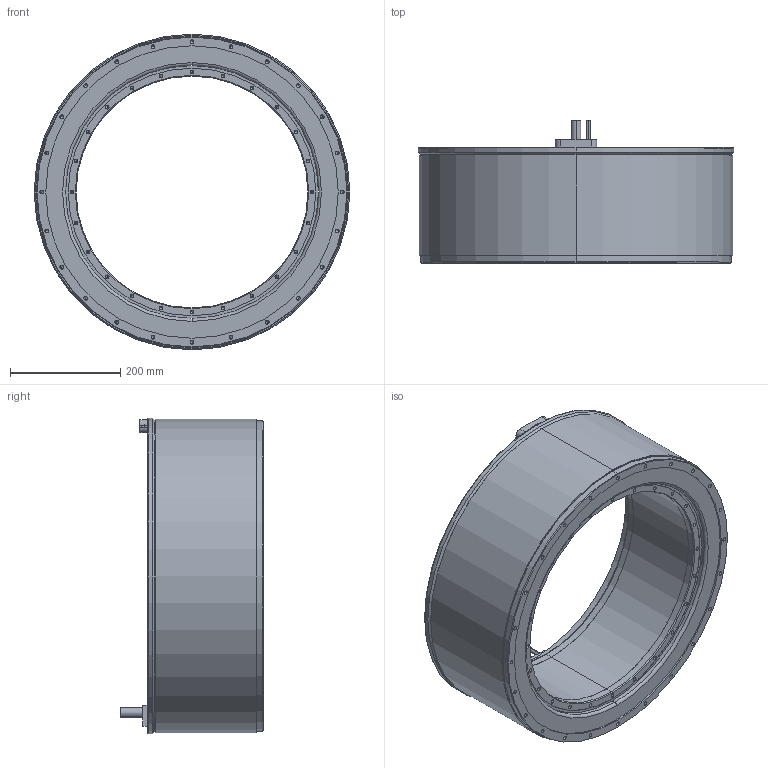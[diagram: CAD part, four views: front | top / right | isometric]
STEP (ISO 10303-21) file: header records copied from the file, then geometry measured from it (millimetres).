
FILE_DESCRIPTION (( 'STEP AP203' ), '1' );
FILE_NAME ('TM-2-GH-SD0(J0).STEP', '2023-06-06T03:59:54', ( '' ), ( '' ), 'SwSTEP 2.0', 'SolidWorks 2015', '' );
FILE_SCHEMA (( 'CONFIG_CONTROL_DESIGN' ));
Length unit declared in the file: millimetre
Products named in the file (3): TM-2-GH-SD0(J0)_Stator; TM-2-GH-SD0(J0); TM-2-GH(J0)_Rotor
Assembly tree (2 placements, depth 2):
  TM-2-GH-SD0(J0)
    TM-2-GH-SD0(J0)_Stator
    TM-2-GH(J0)_Rotor
Bounding box: 572 x 259 x 572 mm (x, y, z)
Volume: 22634022 mm3; surface area: 1432751.7 mm2
Topology: 2 solids, 2 shells, 553 faces, 1336 edges, 717 vertices
Faces by surface type: cylinder 253, cone 214, plane 74, torus 12
Entity records: 14977 total; most frequent: DIRECTION 2810, CARTESIAN_POINT 2417, ORIENTED_EDGE 2284, EDGE_CURVE 1142, AXIS2_PLACEMENT_3D 1110, VERTEX_POINT 717, EDGE_LOOP 681, VECTOR 590
